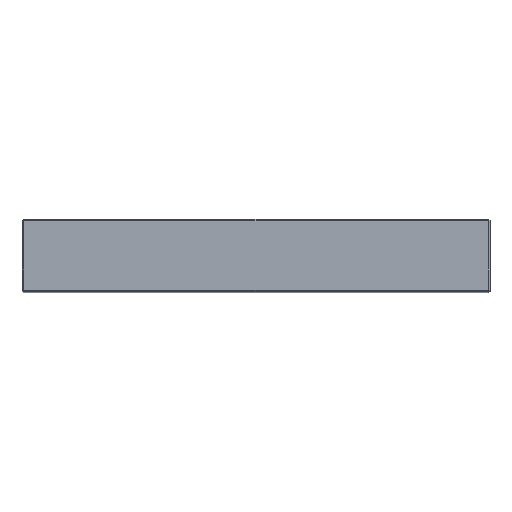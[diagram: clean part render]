
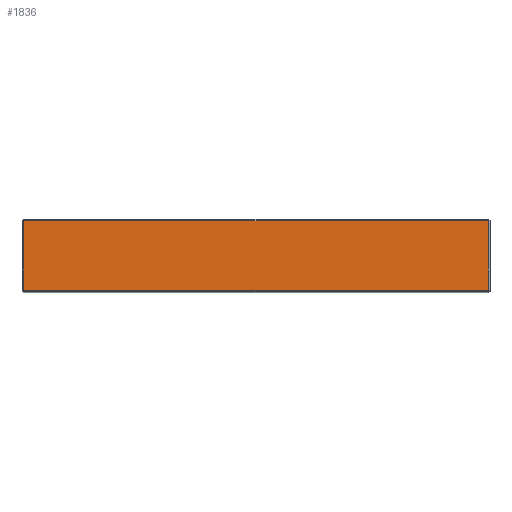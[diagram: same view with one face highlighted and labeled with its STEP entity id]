
A CAD part, top view. The second image highlights one B-rep face of the part: STEP entity #1836.
In plain terms, the highlighted planar face has unit normal (0, 0, 1).
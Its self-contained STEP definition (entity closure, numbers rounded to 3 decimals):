
#175 = DIRECTION ( 'NONE',  ( 0., -1., 0. ) ) ;
#197 = CARTESIAN_POINT ( 'NONE',  ( -148., 45., 223. ) ) ;
#247 = CARTESIAN_POINT ( 'NONE',  ( -147., 46., 223. ) ) ;
#295 = EDGE_CURVE ( 'NONE', #1770, #1607, #1920, .T. ) ;
#331 = VECTOR ( 'NONE', #1559, 1000. ) ;
#358 = LINE ( 'NONE', #896, #331 ) ;
#434 = VECTOR ( 'NONE', #1584, 1000. ) ;
#438 = LINE ( 'NONE', #1507, #434 ) ;
#583 = EDGE_CURVE ( 'NONE', #1607, #999, #1167, .T. ) ;
#881 = EDGE_CURVE ( 'NONE', #999, #914, #438, .T. ) ;
#896 = CARTESIAN_POINT ( 'NONE',  ( 147., 46., 223. ) ) ;
#903 = ORIENTED_EDGE ( 'NONE', *, *, #295, .T. ) ;
#914 = VERTEX_POINT ( 'NONE', #1922 ) ;
#965 = EDGE_CURVE ( 'NONE', #914, #1770, #358, .T. ) ;
#990 = CARTESIAN_POINT ( 'NONE',  ( 147., 45., 223. ) ) ;
#999 = VERTEX_POINT ( 'NONE', #1884 ) ;
#1032 = ORIENTED_EDGE ( 'NONE', *, *, #965, .T. ) ;
#1087 = EDGE_LOOP ( 'NONE', ( #903, #1671, #1738, #1032 ) ) ;
#1132 = VECTOR ( 'NONE', #175, 1000. ) ;
#1150 = DIRECTION ( 'NONE',  ( -1., 0., 0. ) ) ;
#1167 = LINE ( 'NONE', #247, #1132 ) ;
#1206 = AXIS2_PLACEMENT_3D ( 'NONE', #1649, #1597, #1610 ) ;
#1307 = FACE_OUTER_BOUND ( 'NONE', #1087, .T. ) ;
#1507 = CARTESIAN_POINT ( 'NONE',  ( 148., 1., 223. ) ) ;
#1559 = DIRECTION ( 'NONE',  ( 0., 1., 0. ) ) ;
#1584 = DIRECTION ( 'NONE',  ( 1., 0., 0. ) ) ;
#1597 = DIRECTION ( 'NONE',  ( 0., 0., -1. ) ) ;
#1598 = CARTESIAN_POINT ( 'NONE',  ( -147., 45., 223. ) ) ;
#1607 = VERTEX_POINT ( 'NONE', #1598 ) ;
#1610 = DIRECTION ( 'NONE',  ( -1., 0., 0. ) ) ;
#1628 = PLANE ( 'NONE',  #1206 ) ;
#1649 = CARTESIAN_POINT ( 'NONE',  ( 148., 46., 223. ) ) ;
#1671 = ORIENTED_EDGE ( 'NONE', *, *, #583, .T. ) ;
#1738 = ORIENTED_EDGE ( 'NONE', *, *, #881, .T. ) ;
#1770 = VERTEX_POINT ( 'NONE', #990 ) ;
#1836 = ADVANCED_FACE ( 'NONE', ( #1307 ), #1628, .F. ) ;
#1884 = CARTESIAN_POINT ( 'NONE',  ( -147., 1., 223. ) ) ;
#1903 = VECTOR ( 'NONE', #1150, 1000. ) ;
#1920 = LINE ( 'NONE', #197, #1903 ) ;
#1922 = CARTESIAN_POINT ( 'NONE',  ( 147., 1., 223. ) ) ;
